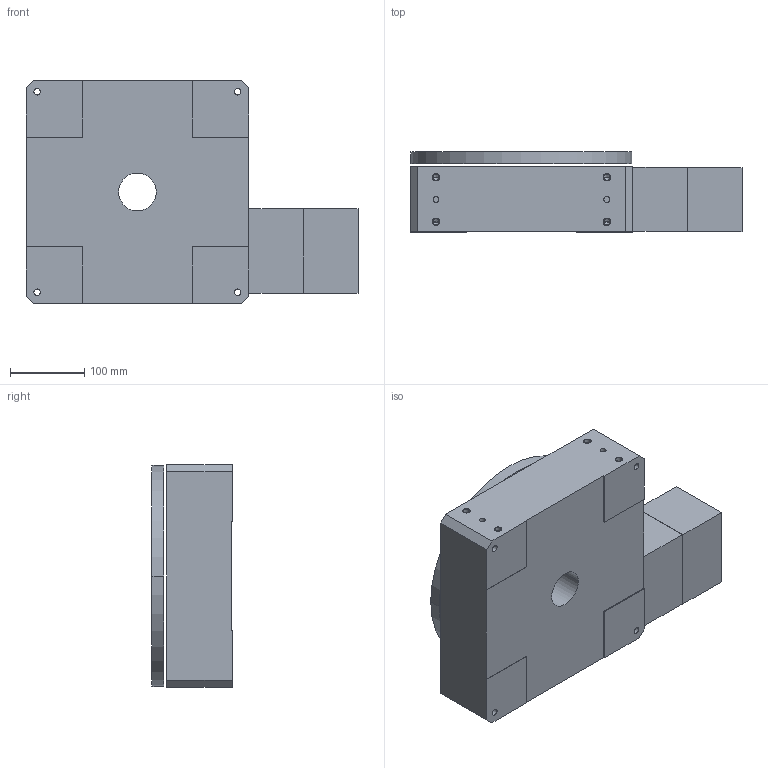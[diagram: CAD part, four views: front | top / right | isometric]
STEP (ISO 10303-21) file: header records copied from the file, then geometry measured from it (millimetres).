
FILE_DESCRIPTION((''),'2;1');
FILE_NAME('R300M9M34E0_ASM','2009-07-02T',('FK20128'),(''),'PRO/ENGINEER BY PARAMETRIC TECHNOLOGY CORPORATION, 2006200','PRO/ENGINEER BY PARAMETRIC TECHNOLOGY CORPORATION, 2006200','');
FILE_SCHEMA(('CONFIG_CONTROL_DESIGN'));
Length unit declared in the file: millimetre
Products named in the file (3): R300M; R300M-M34; R300M9M34E0_ASM
Assembly tree (2 placements, depth 2):
  R300M9M34E0_ASM
    R300M
    R300M-M34
Bounding box: 447.05 x 108.13 x 300 mm (x, y, z)
Volume: 9994823 mm3; surface area: 558015.8 mm2
Topology: 3 solids, 21 shells, 217 faces, 536 edges, 352 vertices
Faces by surface type: cylinder 124, plane 71, cone 22
Entity records: 6566 total; most frequent: DIRECTION 1254, CARTESIAN_POINT 1094, ORIENTED_EDGE 960, EDGE_CURVE 516, AXIS2_PLACEMENT_3D 512, VERTEX_POINT 352, EDGE_LOOP 294, CIRCLE 286
